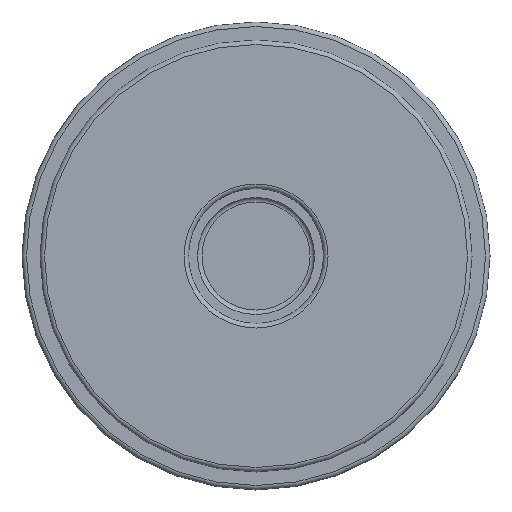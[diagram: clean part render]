
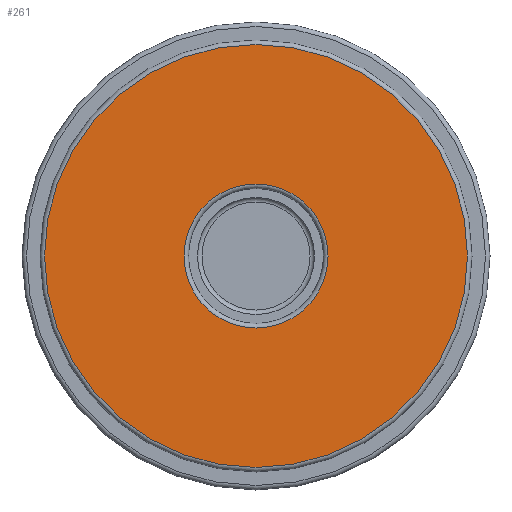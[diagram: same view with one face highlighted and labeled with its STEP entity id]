
A CAD part, front view. The second image highlights one B-rep face of the part: STEP entity #261.
In plain terms, the highlighted planar face has unit normal (0, -1, 0).
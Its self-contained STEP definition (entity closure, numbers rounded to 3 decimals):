
#261=ADVANCED_FACE('',(#5010,#5012),#5014,.T.);
#5010=FACE_BOUND('',#5011,.T.);
#5011=EDGE_LOOP('',(#5839,#5840));
#5012=FACE_BOUND('',#5013,.T.);
#5013=EDGE_LOOP('',(#5841,#5842));
#5014=PLANE('',#5015);
#5015=AXIS2_PLACEMENT_3D('',#5016,#5017,#5018);
#5016=CARTESIAN_POINT('',(0.,-14.,0.));
#5017=DIRECTION('',(0.,-1.,0.));
#5018=DIRECTION('',(0.,0.,1.));
#5839=ORIENTED_EDGE('',*,*,#6227,.F.);
#5840=ORIENTED_EDGE('',*,*,#6226,.F.);
#5841=ORIENTED_EDGE('',*,*,#6228,.T.);
#5842=ORIENTED_EDGE('',*,*,#6229,.T.);
#6226=EDGE_CURVE('',#6799,#6800,#6801,.T.);
#6227=EDGE_CURVE('',#6800,#6799,#6802,.T.);
#6228=EDGE_CURVE('',#6803,#6804,#6805,.T.);
#6229=EDGE_CURVE('',#6804,#6803,#6806,.T.);
#6799=VERTEX_POINT('',#10724);
#6800=VERTEX_POINT('',#10725);
#6801=CIRCLE('',#10726,23.5);
#6802=CIRCLE('',#10730,23.5);
#6803=VERTEX_POINT('',#10734);
#6804=VERTEX_POINT('',#10735);
#6805=CIRCLE('',#10736,8.);
#6806=CIRCLE('',#10740,8.);
#10724=CARTESIAN_POINT('',(0.,-14.,23.5));
#10725=CARTESIAN_POINT('',(0.,-14.,-23.5));
#10726=AXIS2_PLACEMENT_3D('',#10727,#10728,#10729);
#10727=CARTESIAN_POINT('',(0.,-14.,0.));
#10728=DIRECTION('',(0.,1.,0.));
#10729=DIRECTION('',(0.,0.,1.));
#10730=AXIS2_PLACEMENT_3D('',#10731,#10732,#10733);
#10731=CARTESIAN_POINT('',(0.,-14.,0.));
#10732=DIRECTION('',(0.,1.,0.));
#10733=DIRECTION('',(0.,0.,-1.));
#10734=CARTESIAN_POINT('',(0.,-14.,8.));
#10735=CARTESIAN_POINT('',(0.,-14.,-8.));
#10736=AXIS2_PLACEMENT_3D('',#10737,#10738,#10739);
#10737=CARTESIAN_POINT('',(0.,-14.,0.));
#10738=DIRECTION('',(0.,1.,0.));
#10739=DIRECTION('',(0.,0.,1.));
#10740=AXIS2_PLACEMENT_3D('',#10741,#10742,#10743);
#10741=CARTESIAN_POINT('',(0.,-14.,0.));
#10742=DIRECTION('',(0.,1.,0.));
#10743=DIRECTION('',(0.,0.,-1.));
